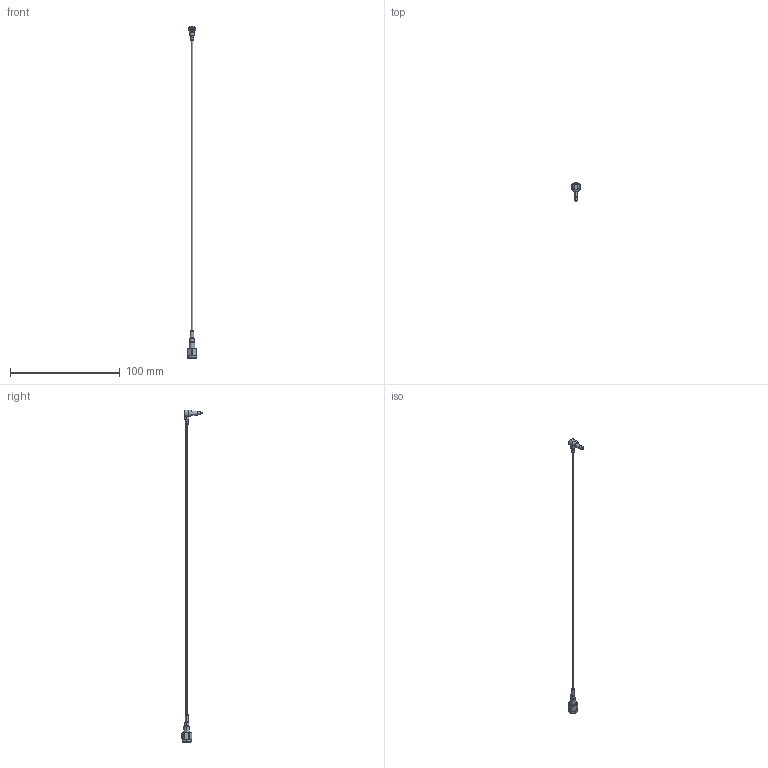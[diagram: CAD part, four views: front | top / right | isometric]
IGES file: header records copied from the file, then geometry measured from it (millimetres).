
Start section: SolidWorks IGES file using analytic representation for surfaces
Global section: file name: C:\3dwork\Toida\アダプタ関連　3Dモデル\90582\90582-0300 MHF-SW23 SMA ADAPTER CABLE.IGS; native system: SolidWorks 2017; preprocessor: SolidWorks 2017; author: E0556; date: 200609.160946; units: millimetre
Bounding box: 8 x 18.7 x 302.9 mm (x, y, z)
Surface area: 2023.7 mm2 (no closed solid volume)
Topology: 0 solids, 0 shells, 155 faces, 1660 edges, 1656 vertices
Faces by surface type: revolution 80, bspline 75
